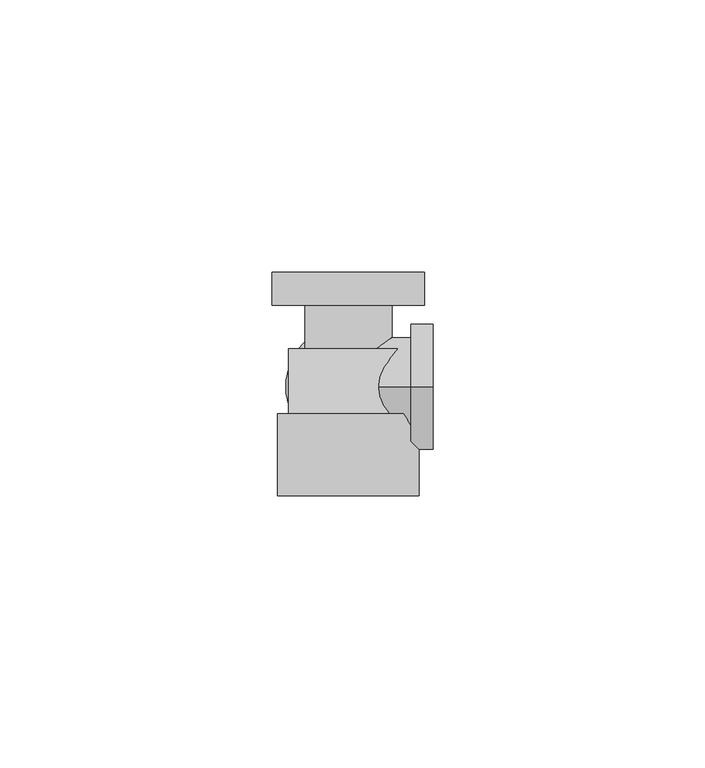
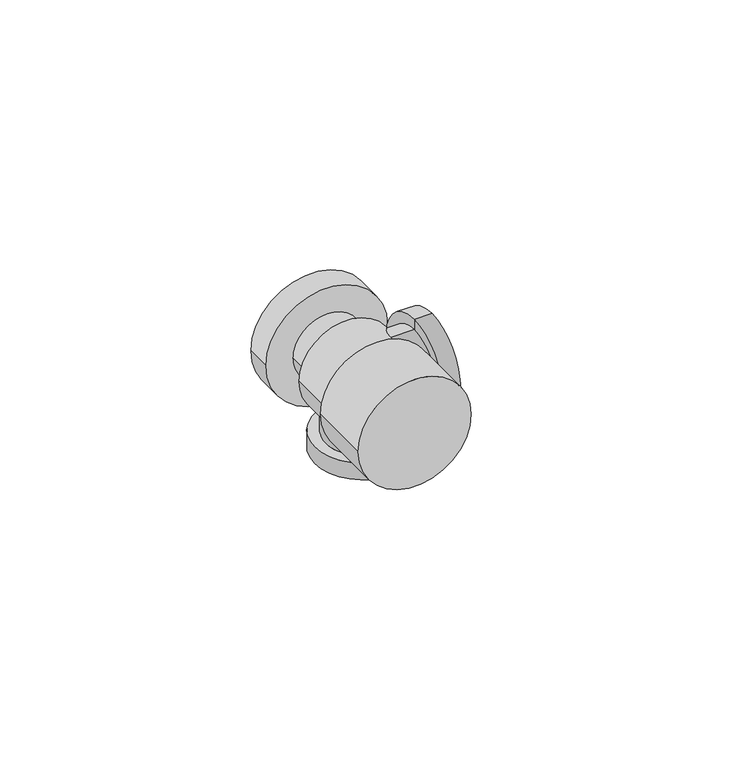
"""IFC4 building model written with IfcOpenShell, lengths in millimetres: pipe fitting geometry, KAN-therm Push podejście mosiężne kątowe do baterii : KAN-therm Push podejście mosiężne kątowe do baterii."""

from ifc_helpers import new_model, si_unit, point, frame, origin, origin_2d, place, context, project, spatial, circle_curve, trimmed, segment, composite_curve, outline, extrude, source, transform, mapped, element, save
from ifc_brep_helpers import plane_surface, cylinder_surface, advanced_brep


def pipe_fitting_97bea91d(model_context):
    return source(origin(), model_context, "Body", "SolidModel", [
        advanced_brep(
        [(0.0, 0.0, 0.0), (0.0, 0.0, 9.0), (0.0, 0.0, -9.0), (15.5, 0.0, -11.5), (15.5, 0.0, 11.5), (15.5, 0.0, 0.0), (11.5, 0.0, -11.5), (11.5, 0.0, 11.5), (11.5, 0.0, -9.0), (11.5, 0.0, 9.0)],
        [
            (0, 1),
            (1, 2, circle_curve(frame((0.0, 0.0, 0.0), z_axis=(-1.0, 0.0, 0.0), x_axis=(0.0, 0.0, 1.0)), 9.0)),
            (2, 0),
            (2, 1, circle_curve(frame((0.0, 0.0, 0.0), z_axis=(-1.0, 0.0, 0.0), x_axis=(0.0, 0.0, 1.0)), 9.0)),
            (3, 4, circle_curve(frame((15.5, 0.0, 0.0), z_axis=(1.0, 0.0, 0.0), x_axis=(0.0, 0.0, 1.0)), 11.5)),
            (4, 5),
            (5, 3),
            (4, 3, circle_curve(frame((15.5, 0.0, 0.0), z_axis=(1.0, 0.0, 0.0), x_axis=(0.0, 0.0, 1.0)), 11.5)),
            (6, 7, circle_curve(frame((11.5, 0.0, 0.0), z_axis=(1.0, 0.0, 0.0), x_axis=(0.0, 0.0, 1.0)), 11.5)),
            (7, 4),
            (3, 6),
            (7, 6, circle_curve(frame((11.5, 0.0, 0.0), z_axis=(1.0, 0.0, 0.0), x_axis=(0.0, 0.0, 1.0)), 11.5)),
            (8, 9, circle_curve(frame((11.5, 0.0, 0.0), z_axis=(1.0, 0.0, 0.0), x_axis=(0.0, 0.0, 1.0)), 9.0)),
            (9, 7),
            (6, 8),
            (9, 8, circle_curve(frame((11.5, 0.0, 0.0), z_axis=(1.0, 0.0, 0.0), x_axis=(0.0, 0.0, 1.0)), 9.0)),
            (1, 9),
            (8, 2),
        ],
        [
            plane_surface(frame((0.0, 0.0, 0.0), z_axis=(-1.0, 0.0, 0.0), x_axis=(0.0, 0.0, 1.0))),
            plane_surface(frame((15.5, 0.0, 0.0), z_axis=(1.0, 0.0, 0.0), x_axis=(0.0, 0.0, 1.0))),
            cylinder_surface(frame((-1351.9903051, 0.0, 0.0), z_axis=(-1.0, 0.0, 0.0), x_axis=(0.0, 0.0, 1.0)), 11.5),
            plane_surface(frame((11.5, 0.0, 0.0), z_axis=(-1.0, 0.0, 0.0), x_axis=(0.0, 0.0, 1.0))),
            cylinder_surface(frame((-1351.9903051, 0.0, 0.0), z_axis=(-1.0, 0.0, 0.0), x_axis=(0.0, 0.0, 1.0)), 9.0),
        ],
        [
            (0, [[1, 2, 3]]),
            (0, [[-3, 4, -1]]),
            (1, [[5, 6, 7]]),
            (1, [[8, -7, -6]]),
            (2, [[9, 10, -5, 11]]),
            (2, [[12, -11, -8, -10]]),
            (3, [[13, 14, -9, 15]]),
            (3, [[16, -15, -12, -14]]),
            (4, [[-2, 17, -13, 18]]),
            (4, [[-4, -18, -16, -17]]),
        ],
    ),
        advanced_brep(
        [(0.0, 0.0, 0.0), (0.0, 9.0, 0.0), (0.0, -9.0, 0.0), (0.0, -11.5, -15.5), (0.0, 11.5, -15.5), (0.0, 0.0, -15.5), (0.0, -11.5, -11.5), (0.0, 11.5, -11.5), (0.0, -9.0, -11.5), (0.0, 9.0, -11.5)],
        [
            (0, 1),
            (1, 2, circle_curve(frame((0.0, 0.0, 0.0), z_axis=(0.0, 0.0, 1.0), x_axis=(0.0, 1.0, 0.0)), 9.0)),
            (2, 0),
            (2, 1, circle_curve(frame((0.0, 0.0, 0.0), z_axis=(0.0, 0.0, 1.0), x_axis=(0.0, 1.0, 0.0)), 9.0)),
            (3, 4, circle_curve(frame((0.0, 0.0, -15.5), z_axis=(0.0, 0.0, -1.0), x_axis=(0.0, 1.0, 0.0)), 11.5)),
            (4, 5),
            (5, 3),
            (4, 3, circle_curve(frame((0.0, 0.0, -15.5), z_axis=(0.0, 0.0, -1.0), x_axis=(0.0, 1.0, 0.0)), 11.5)),
            (6, 7, circle_curve(frame((0.0, 0.0, -11.5), z_axis=(0.0, 0.0, -1.0), x_axis=(0.0, 1.0, 0.0)), 11.5)),
            (7, 4),
            (3, 6),
            (7, 6, circle_curve(frame((0.0, 0.0, -11.5), z_axis=(0.0, 0.0, -1.0), x_axis=(0.0, 1.0, 0.0)), 11.5)),
            (8, 9, circle_curve(frame((0.0, 0.0, -11.5), z_axis=(0.0, 0.0, -1.0), x_axis=(0.0, 1.0, 0.0)), 9.0)),
            (9, 7),
            (6, 8),
            (9, 8, circle_curve(frame((0.0, 0.0, -11.5), z_axis=(0.0, 0.0, -1.0), x_axis=(0.0, 1.0, 0.0)), 9.0)),
            (1, 9),
            (8, 2),
        ],
        [
            plane_surface(frame((0.0, 0.0, 0.0), z_axis=(0.0, 0.0, 1.0), x_axis=(0.0, 1.0, 0.0))),
            plane_surface(frame((0.0, 0.0, -15.5), z_axis=(0.0, 0.0, -1.0), x_axis=(0.0, 1.0, 0.0))),
            cylinder_surface(frame((0.0, 0.0, 2741.4742198), z_axis=(0.0, 0.0, 1.0), x_axis=(0.0, 1.0, 0.0)), 11.5),
            plane_surface(frame((0.0, 0.0, -11.5), z_axis=(0.0, 0.0, 1.0), x_axis=(0.0, 1.0, 0.0))),
            cylinder_surface(frame((0.0, 0.0, 2741.4742198), z_axis=(0.0, 0.0, 1.0), x_axis=(0.0, 1.0, 0.0)), 9.0),
        ],
        [
            (0, [[1, 2, 3]]),
            (0, [[-3, 4, -1]]),
            (1, [[5, 6, 7]]),
            (1, [[8, -7, -6]]),
            (2, [[9, 10, -5, 11]]),
            (2, [[12, -11, -8, -10]]),
            (3, [[13, 14, -9, 15]]),
            (3, [[16, -15, -12, -14]]),
            (4, [[-2, 17, -13, 18]]),
            (4, [[-4, -18, -16, -17]]),
        ],
    ),
        extrude(outline(composite_curve([segment(trimmed(circle_curve(origin_2d(), 13.0), [point((0.0, -13.0))], [point((0.0, 13.0))], False, "CARTESIAN"), True, "CONTINUOUS"), segment(trimmed(circle_curve(origin_2d(), 13.0), [point((0.0, 13.0))], [point((0.0, -13.0))], False, "CARTESIAN"), True, "CONTINUOUS")], self_intersect=False)), frame((0.0, -20.0, 0.0), z_axis=(0.0, 1.0, 0.0), x_axis=(0.0, 0.0, 1.0)), (0.0, 0.0, 1.0), 15.0),
        extrude(outline(composite_curve([segment(trimmed(circle_curve(origin_2d(), 11.0), [point((0.0, -11.0))], [point((0.0, 11.0))], False, "CARTESIAN"), True, "CONTINUOUS"), segment(trimmed(circle_curve(origin_2d(), 11.0), [point((0.0, 11.0))], [point((0.0, -11.0))], False, "CARTESIAN"), True, "CONTINUOUS")], self_intersect=False)), frame((0.0, -8.0, 0.0), z_axis=(0.0, 1.0, 0.0), x_axis=(0.0, 0.0, 1.0)), (0.0, 0.0, 1.0), 15.0),
        extrude(outline(composite_curve([segment(trimmed(circle_curve(origin_2d(), 14.0), [point((0.0, -14.0))], [point((0.0, 14.0))], False, "CARTESIAN"), True, "CONTINUOUS"), segment(trimmed(circle_curve(origin_2d(), 14.0), [point((0.0, 14.0))], [point((0.0, -14.0))], False, "CARTESIAN"), True, "CONTINUOUS")], self_intersect=False)), frame((0.0, 15.0, 0.0), z_axis=(0.0, 1.0, 0.0), x_axis=(0.0, 0.0, 1.0)), (0.0, 0.0, 1.0), 6.0),
        extrude(outline(composite_curve([segment(trimmed(circle_curve(origin_2d(), 8.0), [point((0.0, -8.0))], [point((0.0, 8.0))], False, "CARTESIAN"), True, "CONTINUOUS"), segment(trimmed(circle_curve(origin_2d(), 8.0), [point((0.0, 8.0))], [point((0.0, -8.0))], False, "CARTESIAN"), True, "CONTINUOUS")], self_intersect=False)), frame((0.0, 7.0, 0.0), z_axis=(0.0, 1.0, 0.0), x_axis=(0.0, 0.0, 1.0)), (0.0, 0.0, 1.0), 8.0),
    ])


if __name__ == "__main__":
    model = new_model("IFC4")
    model_context = context("Model", 3, world=origin())
    ifc_project = project(units=[si_unit("LENGTHUNIT", "METRE", prefix="MILLI")], contexts=[model_context])
    site = spatial("IfcSite", under=ifc_project)
    building = spatial("IfcBuilding", under=site)
    placement = place(None, origin())
    pipe_fitting_shape = pipe_fitting_97bea91d(model_context)
    element("IfcPipeFitting", 1, ObjectType="KAN-therm Push podejście mosiężne kątowe do baterii : KAN-therm Push podejście mosiężne kątowe do baterii", at=placement, inside=building, context=model_context, shape_type="MappedRepresentation", body=[
        mapped(pipe_fitting_shape, transform((0.0, 0.0, 0.0), x_axis=(1.0, 0.0, 0.0), y_axis=(0.0, 1.0, 0.0), z_axis=(0.0, 0.0, 1.0))),
    ])
    save(model, "model.ifc")
